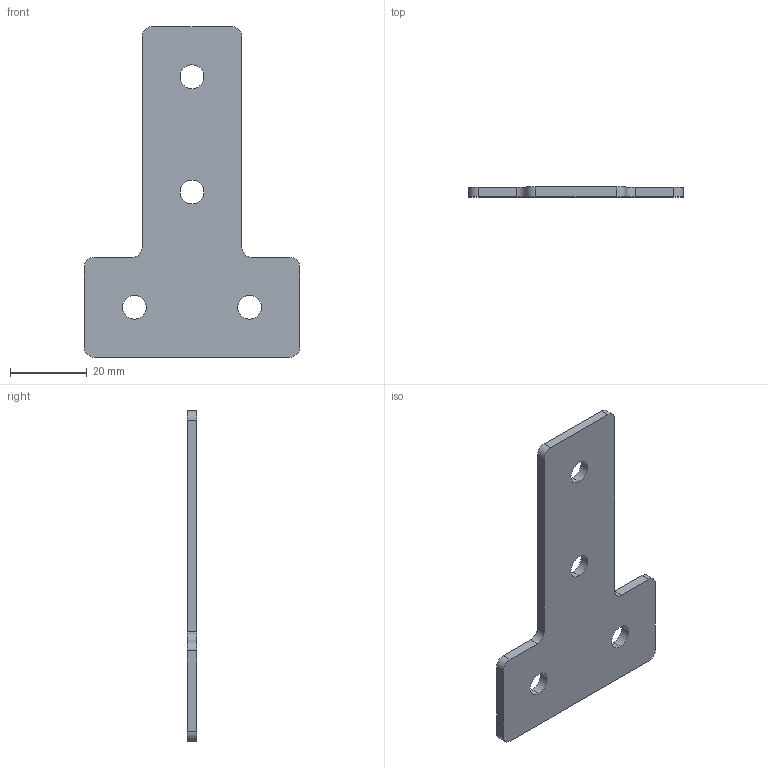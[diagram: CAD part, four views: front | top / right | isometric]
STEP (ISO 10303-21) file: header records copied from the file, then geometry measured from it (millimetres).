
FILE_DESCRIPTION (( 'STEP AP203' ), '1' );
FILE_NAME ('ﾒ-4-30.STEP', '2016-07-22T09:09:41', ( '' ), ( '' ), 'SwSTEP 2.0', 'SolidWorks 2014', '' );
FILE_SCHEMA (( 'CONFIG_CONTROL_DESIGN' ));
Length unit declared in the file: millimetre
Products named in the file (1): ﾒ-4-30
Bounding box: 56 x 2.5 x 86 mm (x, y, z)
Surface area: 6663.1 mm2 (no closed solid volume)
Topology: 0 solids, 1 shells, 26 faces, 72 edges, 48 vertices
Faces by surface type: cylinder 16, plane 10
Entity records: 941 total; most frequent: DIRECTION 158, CARTESIAN_POINT 147, ORIENTED_EDGE 144, EDGE_CURVE 72, AXIS2_PLACEMENT_3D 59, VERTEX_POINT 48, LINE 40, VECTOR 40
